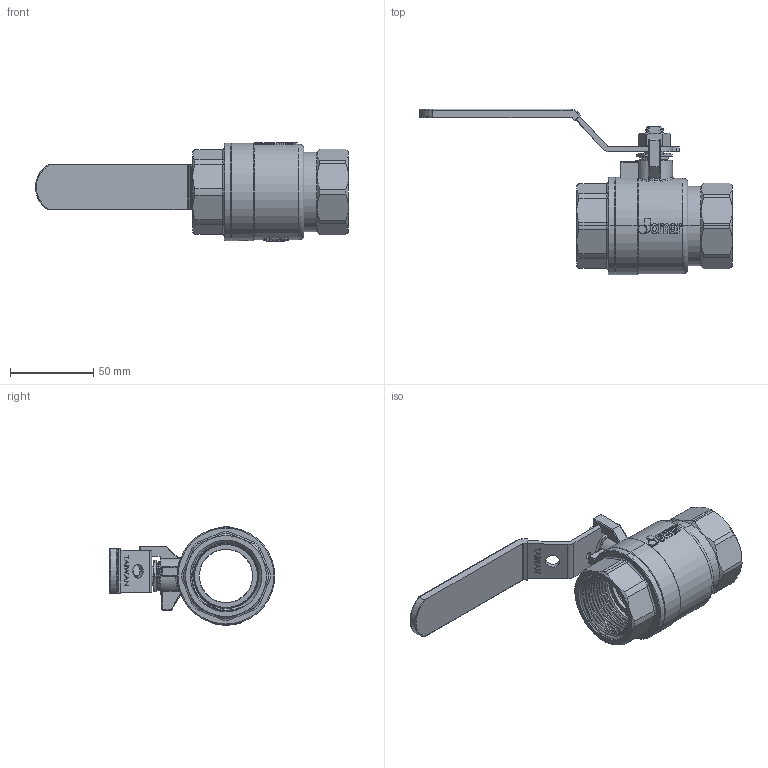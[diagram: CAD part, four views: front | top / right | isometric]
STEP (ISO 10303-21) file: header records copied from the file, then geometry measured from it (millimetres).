
FILE_DESCRIPTION (( 'STEP AP203' ), '1' );
FILE_NAME ('ABL706-無掛鎖-1.25''''JOMAR球閥體-牙口組合-無鉛-2025.STEP', '2025-06-25T06:37:17', ( '' ), ( '' ), 'SwSTEP 2.0', 'SolidWorks 2018', '' );
FILE_SCHEMA (( 'CONFIG_CONTROL_DESIGN' ));
Length unit declared in the file: millimetre
Products named in the file (13): EBL706A; TBL267A (TBL106); EBL706; DN32-白色膠套-T-200CSSG; GBL604; ABL706-無掛鎖-1.25''''JOMAR球閥體-牙口組合-無鉛-2025; RBL706; NGV109; BBL706A-1.25''''JOMAR球閥八角頭帽蓋-無鉛無插溝; BBL706-1.25''''JOMAR球閥體-無鉛無插溝; DN32-CBL706-把手組合-無掛鎖(白色T膠套); EBL306; CBL235-1.25''''通用把手
Assembly tree (13 placements, depth 3):
  ABL706-無掛鎖-1.25''''JOMAR球閥體-牙口組合-無鉛-2025
    BBL706-1.25''''JOMAR球閥體-無鉛無插溝
    TBL267A (TBL106)
    EBL306  x2
    EBL706A
    EBL706
    NGV109
    RBL706
    GBL604
    BBL706A-1.25''''JOMAR球閥八角頭帽蓋-無鉛無插溝
    DN32-CBL706-把手組合-無掛鎖(白色T膠套)
      CBL235-1.25''''通用把手
      DN32-白色膠套-T-200CSSG
Bounding box: 188 x 99.36 x 59 mm (x, y, z)
Volume: 133991.5 mm3; surface area: 84742.2 mm2
Topology: 12 solids, 12 shells, 2294 faces, 6136 edges, 4043 vertices
Faces by surface type: plane 1197, bspline 643, cylinder 284, cone 129, torus 27, sphere 14
Entity records: 125653 total; most frequent: CARTESIAN_POINT 72372, ORIENTED_EDGE 12196, DIRECTION 8197, EDGE_CURVE 6098, VERTEX_POINT 4023, VECTOR 3737, LINE 3737, EDGE_LOOP 2491
